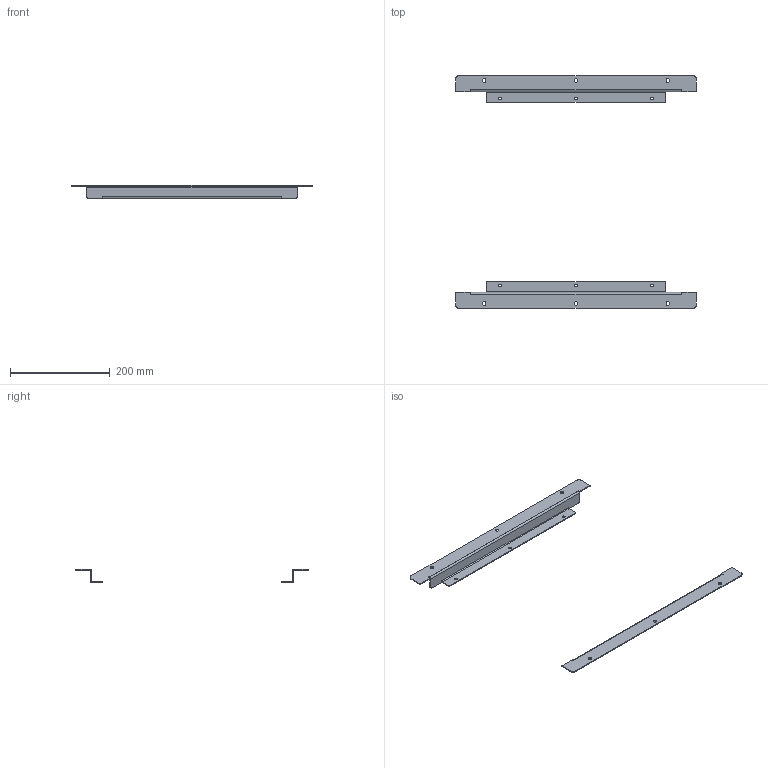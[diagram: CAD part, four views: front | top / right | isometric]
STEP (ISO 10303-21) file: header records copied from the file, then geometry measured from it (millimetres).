
FILE_DESCRIPTION((''),'2;1');
FILE_NAME('MODEL-175_ASM','2012-12-18T',('dougp'),('SAGINAW CONTROL & ENGINEERING'),'PRO/ENGINEER BY PARAMETRIC TECHNOLOGY CORPORATION, 2012070','PRO/ENGINEER BY PARAMETRIC TECHNOLOGY CORPORATION, 2012070','');
FILE_SCHEMA(('AUTOMOTIVE_DESIGN { 1 0 10303 214 1 1 1 1 }'));
Length unit declared in the file: inch
Products named in the file (3): MODEL-175-TP; MODEL-175-BTM; MODEL-175_ASM
Assembly tree (2 placements, depth 2):
  MODEL-175_ASM
    MODEL-175-TP
    MODEL-175-BTM
Bounding box: 482.6 x 466.09 x 27.3 mm (x, y, z)
Volume: 124412.2 mm3; surface area: 135402.7 mm2
Topology: 2 solids, 2 shells, 124 faces, 328 edges, 208 vertices
Faces by surface type: cylinder 64, plane 60
Entity records: 5082 total; most frequent: DIRECTION 730, CARTESIAN_POINT 672, ORIENTED_EDGE 656, PRESENTATION_STYLE_ASSIGNMENT 330, STYLED_ITEM 330, CURVE_STYLE 328, EDGE_CURVE 328, AXIS2_PLACEMENT_3D 273
